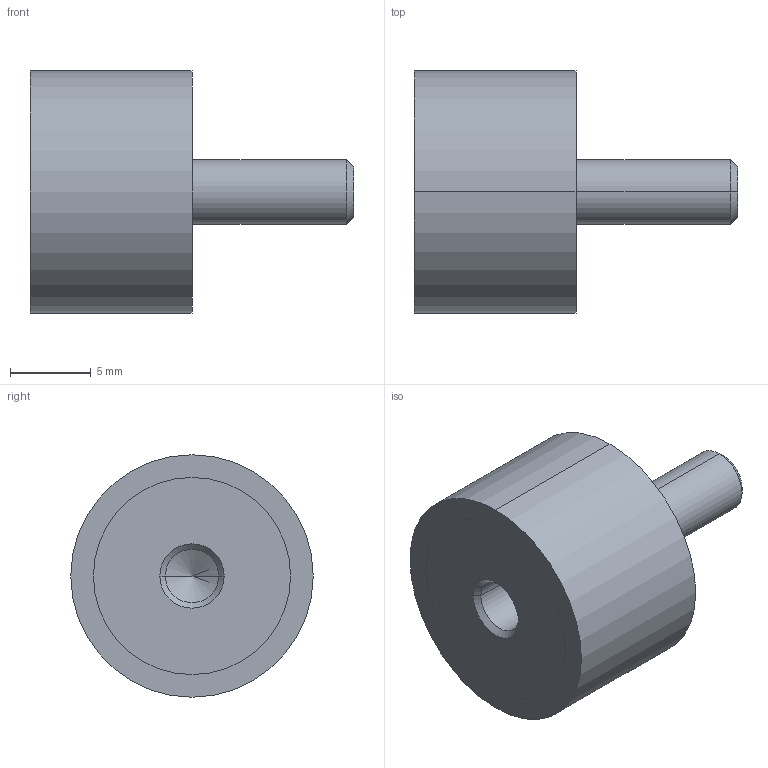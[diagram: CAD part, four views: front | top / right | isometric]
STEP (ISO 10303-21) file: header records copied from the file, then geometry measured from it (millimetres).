
FILE_DESCRIPTION (( 'STEP AP214' ), '1' );
FILE_NAME ('351-15-10-M4-ES-40.step', '2025-07-23T09:57:34', ( '' ), ( '' ), 'SwSTEP 2.0', 'SolidWorks 2022', '' );
FILE_SCHEMA (( 'AUTOMOTIVE_DESIGN' ));
Length unit declared in the file: millimetre
Products named in the file (1): 351-15-10-M4-ES-40
Bounding box: 20 x 15 x 15 mm (x, y, z)
Volume: 1843.5 mm3; surface area: 998.7 mm2
Topology: 1 solids, 1 shells, 24 faces, 48 edges, 29 vertices
Faces by surface type: cylinder 12, cone 6, plane 6
Entity records: 740 total; most frequent: DIRECTION 124, CARTESIAN_POINT 100, ORIENTED_EDGE 92, AXIS2_PLACEMENT_3D 53, EDGE_CURVE 46, EDGE_LOOP 29, VERTEX_POINT 29, CIRCLE 28
